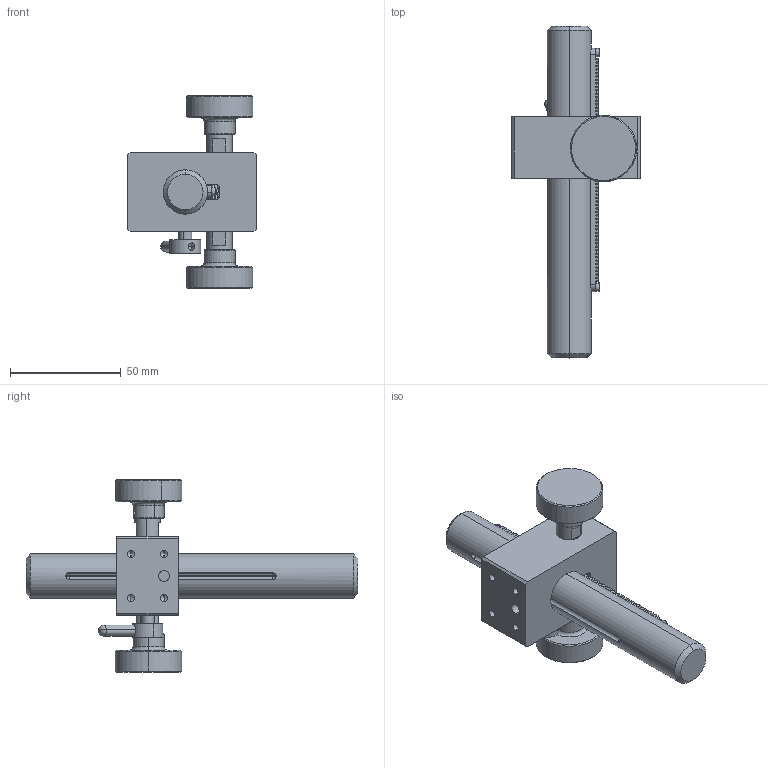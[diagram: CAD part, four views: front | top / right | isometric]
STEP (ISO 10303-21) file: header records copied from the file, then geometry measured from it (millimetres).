
FILE_DESCRIPTION (( 'STEP AP203' ), '1' );
FILE_NAME ('BZK150.STEP', '2024-09-23T00:20:20', ( 'Windows User' ), ( 'P R C' ), 'SwSTEP 2.0', 'SolidWorks 2024', '' );
FILE_SCHEMA (( 'CONFIG_CONTROL_DESIGN' ));
Products named in the file (1): BZK150
Bounding box: 58 x 150 x 87 mm (x, y, z)
Volume: 114483.3 mm3; surface area: 38470.2 mm2
Topology: 15 solids, 15 shells, 643 faces, 1762 edges, 1128 vertices
Faces by surface type: plane 383, cylinder 145, cone 66, bspline 33, sphere 8, torus 8
Entity records: 130939 total; most frequent: CARTESIAN_POINT 115205, ORIENTED_EDGE 3418, DIRECTION 3025, EDGE_CURVE 1709, VECTOR 1149, LINE 1149, VERTEX_POINT 1123, AXIS2_PLACEMENT_3D 938
